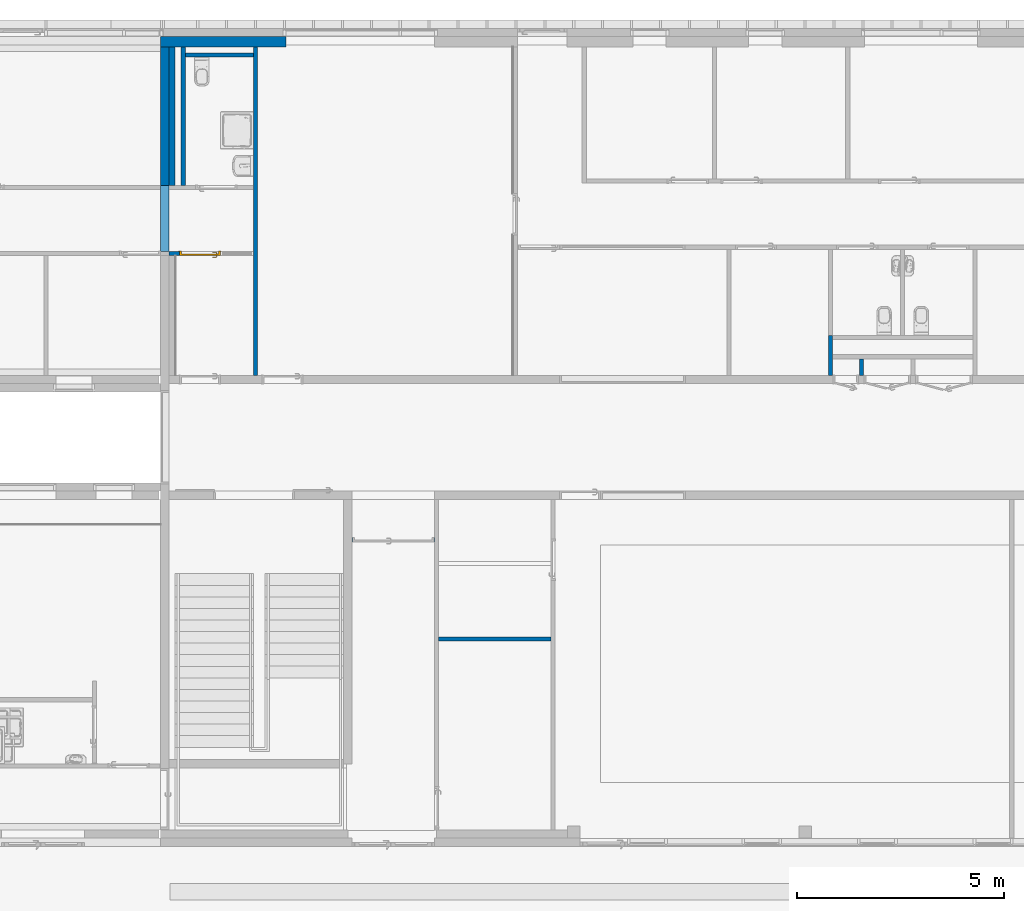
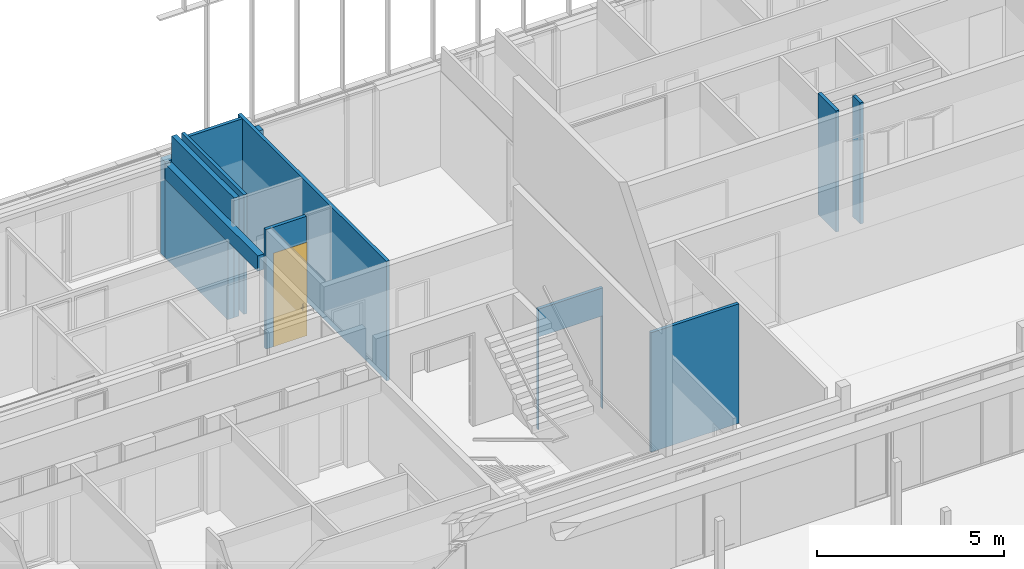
# One storey, part 136 of 240: 12 walls, 1 door, 2 openings.
"""IFC2X3 building model written with IfcOpenShell, lengths in centimetres."""

from ifc_helpers import new_model, entity, si_unit, converted_unit, derived_unit, direction, frame, frame_2d, origin, place, context, subcontext, project, spatial, polyline, rectangle, extrude, clip, bounded_halfspace, faceted_brep, source, transform, mapped, material, material_list, layer, layer_set, layer_usage, type_object, type_shapes, element, fill, save


model = new_model("IFC2X3")

# Units and contexts
model_context = context("Model", 3, precision=0.001, world=origin(), true_north=direction((6.12303176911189e-17, 1.0)))
body_context = subcontext(model_context, "Body", "Model", "MODEL_VIEW")
ifc_project = project(units=[si_unit("LENGTHUNIT", "METRE", prefix="CENTI"), si_unit("AREAUNIT", "SQUARE_METRE"), si_unit("VOLUMEUNIT", "CUBIC_METRE"), converted_unit("PLANEANGLEUNIT", "DEGREE", entity("IfcRatioMeasure", 0.0174532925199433), si_unit("PLANEANGLEUNIT", "RADIAN"), dimensions=[0, 0, 0, 0, 0, 0, 0]), si_unit("MASSUNIT", "GRAM", prefix="KILO"), derived_unit("MASSDENSITYUNIT", [(si_unit("MASSUNIT", "GRAM", prefix="KILO"), 1), (si_unit("LENGTHUNIT", "METRE"), -3)]), si_unit("TIMEUNIT", "SECOND"), si_unit("FREQUENCYUNIT", "HERTZ"), si_unit("THERMODYNAMICTEMPERATUREUNIT", "DEGREE_CELSIUS"), derived_unit("THERMALTRANSMITTANCEUNIT", [(si_unit("MASSUNIT", "GRAM", prefix="KILO"), 1), (si_unit("THERMODYNAMICTEMPERATUREUNIT", "KELVIN"), -1), (si_unit("TIMEUNIT", "SECOND"), -3)]), derived_unit("VOLUMETRICFLOWRATEUNIT", [(si_unit("LENGTHUNIT", "METRE"), 3), (si_unit("TIMEUNIT", "SECOND"), -1)]), si_unit("ELECTRICCURRENTUNIT", "AMPERE"), si_unit("ELECTRICVOLTAGEUNIT", "VOLT"), si_unit("POWERUNIT", "WATT"), si_unit("FORCEUNIT", "NEWTON", prefix="KILO"), si_unit("ILLUMINANCEUNIT", "LUX"), si_unit("LUMINOUSFLUXUNIT", "LUMEN"), si_unit("LUMINOUSINTENSITYUNIT", "CANDELA"), derived_unit("USERDEFINED", [(si_unit("MASSUNIT", "GRAM", prefix="KILO"), -1), (si_unit("LENGTHUNIT", "METRE"), -2), (si_unit("TIMEUNIT", "SECOND"), 3), (si_unit("LUMINOUSFLUXUNIT", "LUMEN"), 1)]), derived_unit("LINEARVELOCITYUNIT", [(si_unit("LENGTHUNIT", "METRE"), 1), (si_unit("TIMEUNIT", "SECOND"), -1)]), si_unit("PRESSUREUNIT", "PASCAL"), derived_unit("USERDEFINED", [(si_unit("LENGTHUNIT", "METRE"), -2), (si_unit("MASSUNIT", "GRAM", prefix="KILO"), 1), (si_unit("TIMEUNIT", "SECOND"), -2)])], contexts=[model_context])

# Site, building, storey
site_placement = place(None, frame((-2781.94577612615, 7442.24238424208, 0.0)))
site = spatial("IfcSite", under=ifc_project, at=site_placement, Name="Default", CompositionType="ELEMENT")
building_placement = place(site_placement, origin())
building = spatial("IfcBuilding", under=site, at=building_placement, CompositionType="ELEMENT")
storey_placement = place(building_placement, origin())
storey = spatial("IfcBuildingStorey", under=building, at=storey_placement, Name="N00 - COO", CompositionType="ELEMENT", Elevation=0.0)

# Walls
ifc_material_1 = material(Name="01 - Maçonnerie")
ifc_layer_1 = layer(ifc_material_1, 25.0)
ifc_layer_set_1 = layer_set([ifc_layer_1], Name="Mur de base:04 - Structure - béton - 25cm")
ifc_layer_usage_1 = layer_usage(ifc_layer_set_1, "AXIS2", "NEGATIVE", 12.5)
wall_type_1 = type_object("IfcWallType", Name="Mur de base:04 - Structure - béton - 25cm", PredefinedType="STANDARD", material=ifc_layer_set_1)
wall_1_placement = place(building_placement, frame((-8126.24987760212, -2.49999999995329, 0.0), z_axis=(0.0, 0.0, 1.0), x_axis=(-1.0, 0.0, 0.0)))
element("IfcWallStandardCase", 1, at=wall_1_placement, inside=storey, type_object=wall_type_1, material=ifc_layer_usage_1, Name="Mur de base:04 - Structure - béton - 25cm", ObjectType="Mur de base:04 - Structure - béton - 25cm", context=body_context, shape_type="SweptSolid", body=[
    extrude(rectangle(XDim=303.250000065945, YDim=25.0, at=frame_2d((151.625000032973, 0.0), x_axis=(-1.0, 0.0))), origin(), (0.0, 0.0, 1.0), 313.0),
])
ifc_material_2 = material(Name="00 - Isolant")
ifc_layer_2 = layer(ifc_material_2, 14.0)
ifc_material_3 = material(Name="01 - Enduit/Plâtre")
ifc_layer_3 = layer(ifc_material_3, 1.3)
ifc_layer_set_2 = layer_set([ifc_layer_2, ifc_layer_3], Name="Mur de base:04 - Parement -  isolant 14 cm + BA13")
ifc_layer_usage_2 = layer_usage(ifc_layer_set_2, "AXIS2", "POSITIVE", -7.65)
wall_type_2 = type_object("IfcWallType", Name="Mur de base:04 - Parement -  isolant 14 cm + BA13", PredefinedType="STANDARD", material=ifc_layer_set_2)
wall_2_placement = place(building_placement, frame((-8401.84987766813, -15.0, 0.0), z_axis=(0.0, 0.0, 1.0), x_axis=(0.0, -1.0, 0.0)))
element("IfcWallStandardCase", 2, at=wall_2_placement, inside=storey, type_object=wall_type_2, material=ifc_layer_usage_2, Name="Mur de base:04 - Parement -  isolant 14 cm + BA13", ObjectType="Mur de base:04 - Parement -  isolant 14 cm + BA13", context=body_context, shape_type="SweptSolid", body=[
    extrude(rectangle(XDim=334.999999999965, YDim=15.3000000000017, at=frame_2d((167.499999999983, 0.0), x_axis=(-1.0, 0.0))), origin(), (0.0, 0.0, 1.0), 391.0),
])
ifc_layer_4 = layer(ifc_material_1, 20.0)
ifc_layer_set_3 = layer_set([ifc_layer_4], Name="Mur de base:04 - Structure - béton - 20cm")
ifc_layer_usage_3 = layer_usage(ifc_layer_set_3, "AXIS2", "NEGATIVE", 10.0)
wall_type_3 = type_object("IfcWallType", Name="Mur de base:04 - Structure - béton - 20cm", PredefinedType="STANDARD", material=ifc_layer_set_3)
wall_3_placement = place(building_placement, frame((-8419.49987766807, -510.0, 255.500000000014), z_axis=(0.0, 0.0, 1.0), x_axis=(0.0, 1.0, 0.0)))
element("IfcWallStandardCase", 3, at=wall_3_placement, inside=storey, type_object=wall_type_3, material=ifc_layer_usage_3, Name="Mur de base:04 - Structure - béton - 20cm", ObjectType="Mur de base:04 - Structure - béton - 20cm", context=body_context, shape_type="SweptSolid", body=[
    extrude(rectangle(XDim=500.000000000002, YDim=19.9999999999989, at=frame_2d((250.000000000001, 0.0), x_axis=(-1.0, 0.0))), origin(), (0.0, 0.0, 1.0), 50.4999999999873),
])
ifc_layer_usage_4 = layer_usage(ifc_layer_set_3, "AXIS2", "NEGATIVE", 10.0)
wall_4_placement = place(building_placement, frame((-8419.49987766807, -350.0, 0.0), z_axis=(0.0, 0.0, 1.0), x_axis=(0.0, 1.0, 0.0)))
element("IfcWallStandardCase", 4, at=wall_4_placement, inside=storey, type_object=wall_type_3, material=ifc_layer_usage_4, Name="Mur de base:04 - Structure - béton - 20cm", ObjectType="Mur de base:04 - Structure - béton - 20cm", context=body_context, shape_type="SweptSolid", body=[
    extrude(rectangle(XDim=334.999999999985, YDim=19.9999999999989, at=frame_2d((167.499999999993, 0.0), x_axis=(-1.0, 0.0))), origin(), (0.0, 0.0, 1.0), 255.500000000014),
])
ifc_layer_5 = layer(ifc_material_3, 1.3)
ifc_layer_6 = layer(ifc_material_2, 7.4)
ifc_layer_7 = layer(ifc_material_3, 1.3)
ifc_layer_set_4 = layer_set([ifc_layer_5, ifc_layer_6, ifc_layer_7], Name="Mur de base:06 - cloisons - Ba13 10cm")
ifc_layer_usage_5 = layer_usage(ifc_layer_set_4, "AXIS2", "NEGATIVE", 5.0)
wall_type_4 = type_object("IfcWallType", Name="Mur de base:06 - cloisons - Ba13 10cm", PredefinedType="STANDARD", material=ifc_layer_set_4)
wall_5_placement = place(building_placement, frame((-6808.49987760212, -810.048500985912, 0.0), z_axis=(0.0, 0.0, 1.0), x_axis=(0.0, 1.0, 0.0)))
element("IfcWallStandardCase", 5, at=wall_5_placement, inside=storey, type_object=wall_type_4, material=ifc_layer_usage_5, Name="Mur de base:06 - cloisons - Ba13 10cm", ObjectType="Mur de base:06 - cloisons - Ba13 10cm", context=body_context, shape_type="SweptSolid", body=[
    extrude(rectangle(XDim=97.0485009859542, YDim=9.99999999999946, at=frame_2d((48.5242504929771, 0.0), x_axis=(-1.0, 0.0))), origin(), (0.0, 0.0, 1.0), 396.0),
])
ifc_layer_usage_6 = layer_usage(ifc_layer_set_4, "AXIS2", "NEGATIVE", 5.0)
wall_6_placement = place(building_placement, frame((-8199.49987760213, -15.0, 0.0), z_axis=(0.0, 0.0, 1.0), x_axis=(0.0, -1.0, 0.0)))
element("IfcWallStandardCase", 6, at=wall_6_placement, inside=storey, type_object=wall_type_4, material=ifc_layer_usage_6, Name="Mur de base:06 - cloisons - Ba13 10cm", ObjectType="Mur de base:06 - cloisons - Ba13 10cm", context=body_context, shape_type="Clipping", body=[
    clip(extrude(rectangle(XDim=795.048500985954, YDim=10.0000000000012, at=frame_2d((397.524250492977, -5.77315972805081e-15), x_axis=(-1.0, 0.0))), origin(), (0.0, 0.0, 1.0), 391.0), bounded_halfspace(frame((0.0, -5.0, 391.0), z_axis=(0.0, 0.0, -1.0), x_axis=(-1.0, 0.0, 0.0)), True, frame((0.0, -5.0, 391.0)), polyline([(0.0, 0.0), (15.0, 0.0), (25.0, 0.0), (335.0, 0.0), (345.0, 0.0), (795.048500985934, 0.0), (795.048500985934, 10.0), (0.0, 10.0), (0.0, 0.0)]))),
])
ifc_layer_usage_7 = layer_usage(ifc_layer_set_4, "AXIS2", "NEGATIVE", 5.0)
wall_7_placement = place(building_placement, frame((-6733.49987760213, -770.048500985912, 0.0), z_axis=(0.0, 0.0, 1.0), x_axis=(0.0, -1.0, 0.0)))
element("IfcWallStandardCase", 7, at=wall_7_placement, inside=storey, type_object=wall_type_4, material=ifc_layer_usage_7, Name="Mur de base:06 - cloisons - Ba13 10cm", ObjectType="Mur de base:06 - cloisons - Ba13 10cm", context=body_context, shape_type="SweptSolid", body=[
    extrude(rectangle(XDim=40.0, YDim=9.99999999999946, at=frame_2d((20.0, 0.0), x_axis=(-1.0, 0.0))), origin(), (0.0, 0.0, 1.0), 396.0),
])
ifc_layer_usage_8 = layer_usage(ifc_layer_set_4, "AXIS2", "NEGATIVE", 5.0)
wall_8_placement = place(building_placement, frame((-7756.49987760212, -1448.0, 0.0)))
element("IfcWallStandardCase", 8, at=wall_8_placement, inside=storey, type_object=wall_type_4, material=ifc_layer_usage_8, Name="Mur de base:06 - cloisons - Ba13 10cm", ObjectType="Mur de base:06 - cloisons - Ba13 10cm", context=body_context, shape_type="Clipping", body=[
    clip(extrude(rectangle(XDim=271.999999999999, YDim=9.99999999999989, at=frame_2d((135.999999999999, -6.03961325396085e-14), x_axis=(-1.0, 0.0))), origin(), (0.0, 0.0, 1.0), 391.0), bounded_halfspace(frame((0.0, -5.0, 391.0), z_axis=(0.0, 0.0, -1.0), x_axis=(0.0, 1.0, 0.0)), True, frame((0.0, -5.0, 391.0)), polyline([(0.0, 0.0), (272.0, 0.0), (272.0, 10.0), (0.0, 10.0), (0.0, 0.0)]))),
])
ifc_layer_usage_9 = layer_usage(ifc_layer_set_4, "AXIS2", "NEGATIVE", 5.0)
wall_9_placement = place(building_placement, frame((-8374.49987766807, -350.0, 0.0), z_axis=(0.0, 0.0, 1.0), x_axis=(0.0, 1.0, 0.0)))
element("IfcWallStandardCase", 9, at=wall_9_placement, inside=storey, type_object=wall_type_4, material=ifc_layer_usage_9, Name="Mur de base:06 - cloisons - Ba13 10cm", ObjectType="Mur de base:06 - cloisons - Ba13 10cm", context=body_context, shape_type="SweptSolid", body=[
    extrude(rectangle(XDim=334.999999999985, YDim=10.0000000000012, at=frame_2d((167.499999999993, 0.0), x_axis=(-1.0, 0.0))), origin(), (0.0, 0.0, 1.0), 391.0),
])
ifc_layer_usage_10 = layer_usage(ifc_layer_set_4, "AXIS2", "NEGATIVE", 5.0)
wall_10_placement = place(building_placement, frame((-8369.49987766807, -35.0, 0.0)))
element("IfcWallStandardCase", 10, at=wall_10_placement, inside=storey, type_object=wall_type_4, material=ifc_layer_usage_10, Name="Mur de base:06 - cloisons - Ba13 10cm", ObjectType="Mur de base:06 - cloisons - Ba13 10cm", context=body_context, shape_type="SweptSolid", body=[
    extrude(rectangle(XDim=165.000000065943, YDim=10.0, at=frame_2d((82.5000000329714, -4.44089209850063e-16), x_axis=(-1.0, 0.0))), origin(), (0.0, 0.0, 1.0), 391.0),
])

# Wall, opening, door
ifc_layer_usage_11 = layer_usage(ifc_layer_set_4, "AXIS2", "NEGATIVE", 5.0)
wall_11_placement = place(building_placement, frame((-8284.19987766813, -515.0, 0.0), z_axis=(0.0, 0.0, 1.0), x_axis=(-1.0, 0.0, 0.0)))
wall_11 = element("IfcWallStandardCase", 11, at=wall_11_placement, inside=storey, type_object=wall_type_4, material=ifc_layer_usage_11, Name="Mur de base:06 - cloisons - Ba13 10cm", ObjectType="Mur de base:06 - cloisons - Ba13 10cm", context=body_context, shape_type="SweptSolid", body=[
    extrude(rectangle(XDim=125.299999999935, YDim=10.0000000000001, at=frame_2d((62.6499999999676, 0.0), x_axis=(-1.0, 0.0))), origin(), (0.0, 0.0, 1.0), 391.0),
])
opening_1_placement = place(wall_11_placement, frame((0.0, -5.0, 0.0)))
opening_1 = element("IfcOpeningElement", 12, at=opening_1_placement, cuts=wall_11, Name="Int. Simple:PV (0.93m x 3.00m):1", ObjectType="Opening", context=body_context, shape_type="SweptSolid", body=[
    extrude(rectangle(XDim=304.500000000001, YDim=99.9999999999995, at=frame_2d((152.250000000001, 49.9999999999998), x_axis=(1.0, 0.0))), frame((0.0, 0.0, 0.0), z_axis=(0.0, 1.0, 0.0), x_axis=(0.0, 0.0, 1.0)), (0.0, 0.0, 1.0), 10.0),
])
ifc_material_4 = material(Name="Finition Peinture - Blanc satiné")
ifc_material_5 = material(Name="Bois - Panneau de porte")
ifc_material_6 = material(Name="Bois - Cadre de porte")
ifc_material_list_1 = material_list([ifc_material_4, ifc_material_5, ifc_material_6])
ifc_material_list_2 = material_list([ifc_material_4, ifc_material_5, ifc_material_6])
door_style = type_object("IfcDoorStyle", Name="PV (0.93m x 3.00m)", ConstructionType="NOTDEFINED", OperationType="SINGLE_SWING_RIGHT", ParameterTakesPrecedence=False, Sizeable=False, material=ifc_material_list_2)
shared_shape = source(origin(), body_context, "Body", "Brep", [
    faceted_brep([(99.5000000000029, -0.500000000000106, 87.0), (99.5000000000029, -0.500000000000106, 108.0), (98.535276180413, -0.500000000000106, 108.399601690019), (97.5000000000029, -0.500000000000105, 108.535898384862), (96.4647238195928, -0.500000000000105, 108.399601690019), (95.500000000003, -0.500000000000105, 108.0), (95.5000000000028, -0.500000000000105, 87.0), (96.4647238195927, -0.500000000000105, 86.6003983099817), (97.5000000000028, -0.500000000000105, 86.464101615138), (98.5352761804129, -0.500000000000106, 86.6003983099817), (99.5000000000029, 0.0, 108.0), (99.5000000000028, 0.0, 87.0), (98.5352761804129, 0.0, 86.6003983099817), (97.5000000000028, 0.0, 86.464101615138), (96.4647238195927, 0.0, 86.6003983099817), (95.5000000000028, 0.0, 87.0), (95.5000000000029, 0.0, 108.0), (96.4647238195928, 0.0, 108.399601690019), (97.5000000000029, 0.0, 108.535898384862), (98.535276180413, 0.0, 108.399601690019)], [[[0, 1, 2, 3, 4, 5, 6, 7, 8, 9]], [[10, 11, 12, 13, 14, 15, 16, 17, 18, 19]], [[9, 12, 11, 0]], [[8, 13, 12, 9]], [[7, 14, 13, 8]], [[7, 6, 15, 14]], [[15, 6, 5, 16]], [[4, 17, 16, 5]], [[3, 18, 17, 4]], [[2, 19, 18, 3]], [[2, 1, 10, 19]], [[11, 10, 1, 0]]]),
    faceted_brep([(99.5000000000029, 4.0, 87.0), (99.5000000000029, 4.0, 108.0), (98.535276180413, 4.0, 108.399601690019), (97.5000000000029, 4.0, 108.535898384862), (96.4647238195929, 4.0, 108.399601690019), (95.500000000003, 4.0, 108.0), (95.5000000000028, 4.0, 87.0), (96.4647238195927, 4.0, 86.6003983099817), (97.5000000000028, 4.0, 86.464101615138), (98.5352761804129, 4.0, 86.6003983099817), (97.5000000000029, 4.49999999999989, 108.535898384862), (98.535276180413, 4.49999999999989, 108.399601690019), (99.5000000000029, 4.49999999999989, 108.0), (99.5000000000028, 4.49999999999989, 87.0), (98.5352761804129, 4.49999999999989, 86.6003983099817), (97.5000000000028, 4.49999999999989, 86.464101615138), (96.4647238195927, 4.49999999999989, 86.6003983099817), (95.5000000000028, 4.49999999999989, 87.0), (95.500000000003, 4.49999999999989, 108.0), (96.4647238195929, 4.49999999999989, 108.399601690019)], [[[0, 1, 2, 3, 4, 5, 6, 7, 8, 9]], [[10, 11, 12, 13, 14, 15, 16, 17, 18, 19]], [[4, 19, 18, 5]], [[3, 10, 19, 4]], [[2, 11, 10, 3]], [[2, 1, 12, 11]], [[13, 12, 1, 0]], [[9, 14, 13, 0]], [[8, 15, 14, 9]], [[7, 16, 15, 8]], [[7, 6, 17, 16]], [[17, 6, 5, 18]]]),
    faceted_brep([(97.2974701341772, -0.50000000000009, 100.778044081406), (97.7025298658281, -0.500000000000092, 100.778044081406), (98.1000000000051, -0.500000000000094, 100.699999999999), (98.100000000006, -0.500000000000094, 99.2999999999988), (97.7025298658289, -0.500000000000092, 99.221955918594), (97.297470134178, -0.50000000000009, 99.2219559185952), (96.9000000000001, -0.500000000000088, 99.3000000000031), (96.9000000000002, -0.500000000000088, 100.7), (97.7025298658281, -3.10045754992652, 100.778044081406), (98.1000000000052, -3.26509507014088, 100.7), (97.2974701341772, -2.93267631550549, 100.778044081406), (95.9298602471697, -4.30028620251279, 100.778044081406), (96.0976414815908, -4.70534593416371, 100.778044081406), (96.9000000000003, -2.76803879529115, 100.7), (96.9000000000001, -2.76803879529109, 99.3000000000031), (97.297470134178, -2.93267631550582, 99.2219559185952), (97.7025298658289, -3.10045754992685, 99.221955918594), (96.0976414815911, -4.70534593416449, 99.221955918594), (95.9298602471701, -4.30028620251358, 99.2219559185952), (98.100000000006, -3.26509507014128, 99.2999999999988), (96.2622790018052, -5.10281606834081, 100.7), (95.7652227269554, -3.90281606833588, 100.7), (95.7652227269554, -3.90281606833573, 99.3000000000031), (96.2622790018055, -5.10281606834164, 99.2999999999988), (87.4981359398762, -5.10281606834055, 100.7), (87.4981359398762, -4.70534593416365, 100.778044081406), (87.4981359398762, -4.30028620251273, 100.778044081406), (87.4981359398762, -3.90281606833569, 100.699999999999), (87.4981359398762, -3.90281606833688, 99.3000000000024), (87.4981359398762, -4.30028620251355, 99.2219559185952), (87.4981359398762, -4.70534593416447, 99.221955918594), (87.4981359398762, -5.10281606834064, 99.2999999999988), (91.7139980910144, -4.5028160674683, 100.78786867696), (92.2692302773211, -5.1028160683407, 100.7), (91.6316793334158, -3.9028160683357, 100.7), (91.631679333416, -3.9028160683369, 99.3000000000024), (91.7139981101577, -4.50281607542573, 99.2121313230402), (92.2692310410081, -5.10281606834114, 99.2999999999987)], [[[0, 1, 2, 3, 4, 5, 6, 7]], [[2, 1, 8, 9]], [[1, 0, 10, 11, 12, 8]], [[0, 7, 13, 10]], [[14, 13, 7, 6]], [[5, 15, 14, 6]], [[5, 4, 16, 17, 18, 15]], [[3, 19, 16, 4]], [[9, 19, 3, 2]], [[9, 8, 12, 20]], [[10, 13, 21, 11]], [[22, 21, 13, 14]], [[14, 15, 18, 22]], [[16, 19, 23, 17]], [[20, 23, 19, 9]], [[24, 25, 26, 27, 28, 29, 30, 31]], [[32, 25, 33]], [[33, 25, 24]], [[33, 20, 12]], [[11, 34, 32]], [[34, 11, 21]], [[27, 26, 34]], [[32, 26, 25]], [[32, 34, 26]], [[32, 33, 12]], [[11, 32, 12]], [[21, 22, 35, 28, 27, 34]], [[36, 29, 35]], [[30, 36, 37]], [[18, 35, 22]], [[29, 28, 35]], [[30, 37, 31]], [[37, 17, 23]], [[36, 17, 37]], [[36, 18, 17]], [[36, 35, 18]], [[29, 36, 30]], [[23, 20, 33, 24, 31, 37]]]),
    faceted_brep([(97.2974701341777, 4.49999999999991, 99.2219559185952), (97.7025298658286, 4.49999999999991, 99.221955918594), (98.1000000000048, 4.4999999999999, 99.2999999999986), (98.1000000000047, 4.4999999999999, 100.7), (97.7025298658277, 4.49999999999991, 100.778044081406), (97.2974701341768, 4.49999999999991, 100.778044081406), (96.8999999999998, 4.49999999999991, 100.7), (96.900000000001, 4.49999999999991, 99.3000000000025), (96.8999999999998, 6.7485204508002, 100.7), (96.8999999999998, 6.74852045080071, 99.3000000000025), (97.2974701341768, 6.91315797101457, 100.778044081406), (97.7025298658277, 7.0809392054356, 100.778044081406), (96.0838906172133, 8.69957845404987, 100.778044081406), (95.9161093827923, 8.29451872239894, 100.778044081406), (98.1000000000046, 7.24557672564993, 100.7), (98.1000000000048, 7.24557672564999, 99.2999999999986), (97.7025298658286, 7.08093920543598, 99.221955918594), (97.2974701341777, 6.91315797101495, 99.2219559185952), (95.9161093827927, 8.29451872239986, 99.2219559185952), (96.0838906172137, 8.69957845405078, 99.221955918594), (95.751471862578, 7.89704858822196, 100.7), (95.7514718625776, 7.89704858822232, 99.3000000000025), (96.2485281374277, 9.09704858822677, 100.7), (96.2485281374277, 9.09704858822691, 99.2999999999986), (87.4954216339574, 8.29451872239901, 100.778044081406), (87.4954216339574, 8.69957845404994, 100.778044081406), (87.4954216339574, 9.09704858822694, 100.7), (87.4954216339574, 9.09704858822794, 99.2999999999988), (87.4954216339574, 8.6995784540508, 99.221955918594), (87.4954216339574, 8.29451872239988, 99.2219559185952), (87.4954216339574, 7.89704858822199, 99.3000000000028), (87.4954216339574, 7.89704858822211, 100.7), (91.6234467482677, 7.89704858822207, 100.7), (91.6234479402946, 7.89704858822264, 99.3000000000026), (91.7057655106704, 8.49704858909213, 100.78786867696), (92.255479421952, 9.09704858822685, 100.7), (92.2554795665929, 9.09704858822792, 99.2999999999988), (91.7057654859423, 8.49704858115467, 99.2121313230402)], [[[0, 1, 2, 3, 4, 5, 6, 7]], [[8, 9, 7, 6]], [[5, 10, 8, 6]], [[5, 4, 11, 12, 13, 10]], [[3, 14, 11, 4]], [[14, 3, 2, 15]], [[2, 1, 16, 15]], [[1, 0, 17, 18, 19, 16]], [[0, 7, 9, 17]], [[20, 21, 9, 8]], [[8, 10, 13, 20]], [[14, 22, 12, 11]], [[23, 22, 14, 15]], [[15, 16, 19, 23]], [[17, 9, 21, 18]], [[24, 25, 26, 27, 28, 29, 30, 31]], [[21, 20, 32, 31, 30, 33]], [[34, 24, 32]], [[25, 34, 35]], [[13, 32, 20]], [[24, 31, 32]], [[25, 35, 26]], [[35, 12, 22]], [[34, 12, 35]], [[34, 13, 12]], [[34, 32, 13]], [[24, 34, 25]], [[22, 23, 36, 27, 26, 35]], [[37, 28, 36]], [[36, 28, 27]], [[36, 23, 19]], [[18, 33, 37]], [[33, 18, 21]], [[30, 29, 33]], [[37, 29, 28]], [[37, 33, 29]], [[37, 36, 19]], [[18, 37, 19]]]),
    faceted_brep([(103.500000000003, 4.0, 301.0), (103.500000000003, 4.0, 0.0), (10.5000000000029, 4.0, 0.0), (10.5000000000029, 4.0, 301.0), (103.500000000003, 0.0, 301.0), (10.5000000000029, 0.0, 301.0), (10.5000000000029, 0.0, 0.0), (103.500000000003, 0.0, 0.0)], [[[0, 1, 2, 3]], [[4, 5, 6, 7]], [[3, 5, 4, 0]], [[2, 6, 5, 3]], [[1, 7, 6, 2]], [[0, 4, 7, 1]]]),
    faceted_brep([(107.0, 10.0, 0.0), (107.0, 0.0, 0.0), (108.500000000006, 0.0, 0.0), (108.500000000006, -0.500000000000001, 0.0), (103.500000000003, -0.500000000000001, 0.0), (103.500000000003, 4.0, 0.0), (102.0, 4.0, 0.0), (102.0, 10.5000000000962, 0.0), (108.500000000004, 10.5000000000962, 0.0), (108.500000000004, 10.0, 0.0), (108.500000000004, 10.0, 306.0), (5.50000000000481, 10.0, 306.0), (5.50000000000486, 10.0, 0.0), (7.0, 10.0, 0.0), (7.0, 10.0, 304.500000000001), (107.0, 10.0, 304.500000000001), (108.500000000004, 10.5000000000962, 306.0), (102.0, 10.5000000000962, 299.5), (12.0, 10.5000000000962, 299.5), (12.0, 10.5000000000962, 0.0), (5.50000000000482, 10.5000000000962, 0.0), (5.50000000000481, 10.5000000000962, 306.0), (102.0, 4.0, 299.5), (103.500000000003, 4.0, 301.0), (10.5000000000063, 4.0, 301.0), (10.5000000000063, 4.0, 0.0), (12.0, 4.0, 0.0), (12.0, 4.0, 299.5), (103.500000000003, -0.500000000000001, 301.0), (108.500000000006, -0.500000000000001, 306.0), (5.5000000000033, -0.500000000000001, 306.0), (5.50000000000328, -0.500000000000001, 0.0), (10.5000000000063, -0.500000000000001, 0.0), (10.5000000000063, -0.500000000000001, 301.0), (108.500000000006, 0.0, 306.0), (107.0, 0.0, 304.500000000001), (7.0, 0.0, 304.500000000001), (7.0, 0.0, 0.0), (5.5000000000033, 0.0, 0.0), (5.50000000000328, 0.0, 306.0)], [[[0, 1, 2, 3, 4, 5, 6, 7, 8, 9]], [[9, 10, 11, 12, 13, 14, 15, 0]], [[8, 16, 10, 9]], [[7, 17, 18, 19, 20, 21, 16, 8]], [[7, 6, 22, 17]], [[5, 23, 24, 25, 26, 27, 22, 6]], [[5, 4, 28, 23]], [[3, 29, 30, 31, 32, 33, 28, 4]], [[2, 34, 29, 3]], [[1, 35, 36, 37, 38, 39, 34, 2]], [[0, 15, 35, 1]], [[14, 13, 37, 36]], [[13, 12, 20, 19, 26, 25, 32, 31, 38, 37]], [[21, 20, 12, 11]], [[27, 26, 19, 18]], [[33, 32, 25, 24]], [[39, 38, 31, 30]], [[15, 14, 36, 35]], [[16, 21, 11, 10]], [[22, 27, 18, 17]], [[28, 33, 24, 23]], [[34, 39, 30, 29]]]),
])
type_shapes(door_style, [shared_shape])
door_placement = place(opening_1_placement, frame((107.0, 10.0, 0.0), z_axis=(0.0, 0.0, 1.0), x_axis=(-1.0, 0.0, 0.0)))
door = element("IfcDoor", 13, at=door_placement, inside=storey, type_object=door_style, material=ifc_material_list_1, Name="Int. Simple:PV (0.93m x 3.00m)", ObjectType="Int. Simple:PV (0.93m x 3.00m)", OverallHeight=304.500000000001, OverallWidth=99.9999999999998, context=body_context, shape_type="MappedRepresentation", body=[
    mapped(shared_shape, transform((0.0, 0.0, 0.0), scale=1.0)),
])
fill(opening_1, door)

# Wall, opening
ifc_layer_usage_12 = layer_usage(ifc_layer_set_4, "AXIS2", "NEGATIVE", 5.0)
wall_12_placement = place(building_placement, frame((-7966.49987760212, -1207.78802919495, 0.0)))
wall_12 = element("IfcWallStandardCase", 14, at=wall_12_placement, inside=storey, type_object=wall_type_4, material=ifc_layer_usage_12, Name="Mur de base:06 - cloisons - Ba13 10cm", ObjectType="Mur de base:06 - cloisons - Ba13 10cm", context=body_context, shape_type="SweptSolid", body=[
    extrude(rectangle(XDim=200.0, YDim=9.99999999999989, at=frame_2d((99.9999999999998, 0.0), x_axis=(-1.0, 0.0))), origin(), (0.0, 0.0, 1.0), 396.0),
])
opening_2_placement = place(wall_12_placement, frame((198.499999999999, 5.0, 0.0)))
element("IfcOpeningElement", 15, at=opening_2_placement, cuts=wall_12, Name="Int. Double:PV (1.90m x 3.00m):1", ObjectType="Opening", context=body_context, shape_type="SweptSolid", body=[
    extrude(rectangle(XDim=304.500000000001, YDim=197.0, at=frame_2d((152.250000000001, 98.5), x_axis=(1.0, 0.0))), frame((0.0, 0.0, 0.0), z_axis=(0.0, -1.0, 0.0), x_axis=(0.0, 0.0, 1.0)), (0.0, 0.0, 1.0), 10.0),
])

save(model, "model.ifc")
